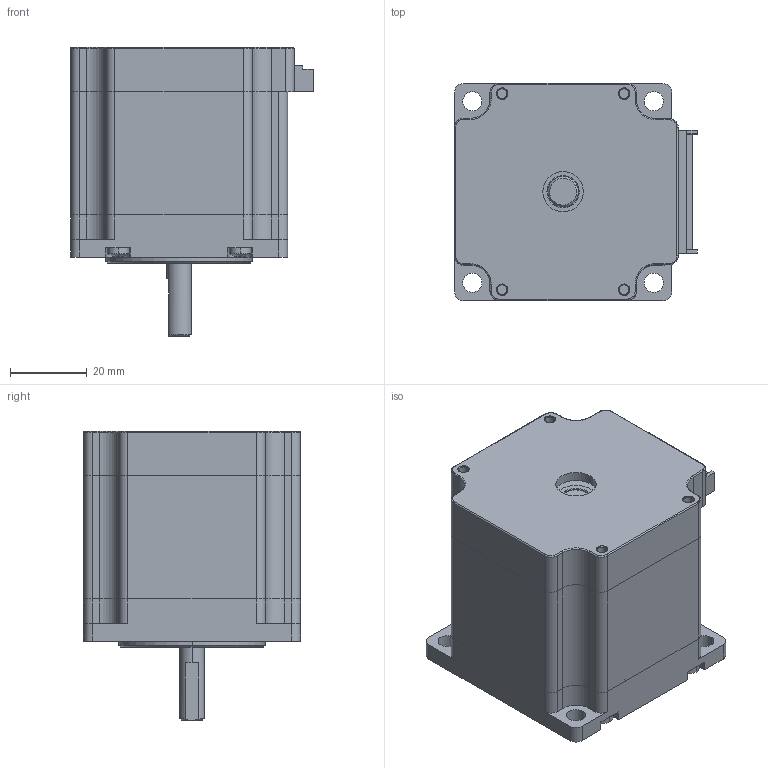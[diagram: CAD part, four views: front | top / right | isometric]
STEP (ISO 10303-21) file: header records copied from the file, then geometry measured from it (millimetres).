
FILE_DESCRIPTION (( 'STEP AP203' ), '1' );
FILE_NAME ('YK57HB56-03A.STEP', '2021-06-02T07:11:10', ( 'Admin' ), ( '' ), 'SwSTEP 2.0', 'SolidWorks 2016', '' );
FILE_SCHEMA (( 'CONFIG_CONTROL_DESIGN' ));
Length unit declared in the file: millimetre
Products named in the file (9): 隅赽; 粣創; 橈埽盓殤; YK57HB56-03A; 粣郋; 蹟佪; ヶ裔; 綴裔; 蟀諉ん
Assembly tree (12 placements, depth 2):
  YK57HB56-03A
    ヶ裔
    隅赽
    綴裔
    蟀諉ん
    蹟佪  x4
    粣創  x2
    粣郋
    橈埽盓殤
Bounding box: 63.12 x 56.54 x 75.1 mm (x, y, z)
Volume: 94358.6 mm3; surface area: 61533.9 mm2
Topology: 7 solids, 20 shells, 2365 faces, 6527 edges, 4320 vertices
Faces by surface type: plane 1564, cylinder 731, cone 30, torus 24, bspline 12, sphere 4
Entity records: 60417 total; most frequent: CARTESIAN_POINT 12244, ORIENTED_EDGE 9916, DIRECTION 9891, EDGE_CURVE 4968, LINE 3349, VECTOR 3349, VERTEX_POINT 3290, AXIS2_PLACEMENT_3D 3271
